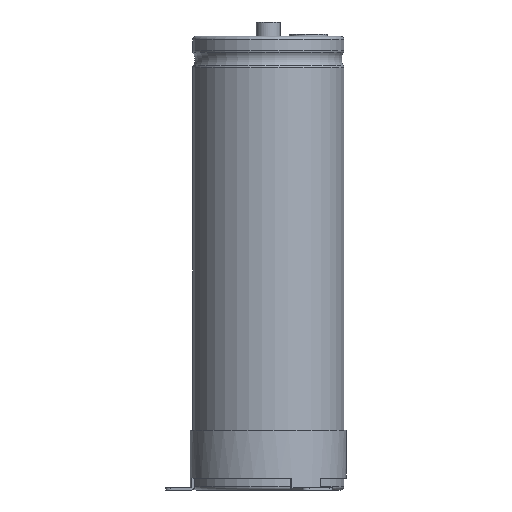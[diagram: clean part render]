
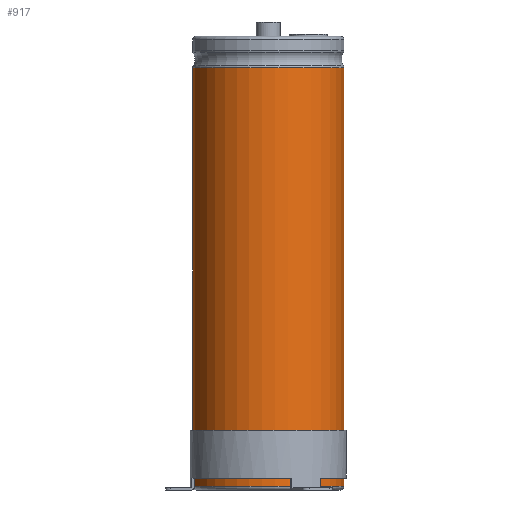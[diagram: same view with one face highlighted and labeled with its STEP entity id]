
A CAD part, front view. The second image highlights one B-rep face of the part: STEP entity #917.
In plain terms, the highlighted cylindrical face has radius 31.75 mm (diameter 63.5 mm), a partial arc.
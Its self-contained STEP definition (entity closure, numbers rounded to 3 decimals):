
#917=ADVANCED_FACE('',(#1213),#1039,.T.);
#1039=CYLINDRICAL_SURFACE('',#4878,31.75);
#1213=FACE_OUTER_BOUND('',#1474,.T.);
#1474=EDGE_LOOP('',(#2748,#2749,#2750,#2751));
#1758=CIRCLE('',#4875,31.75);
#1759=CIRCLE('',#4877,31.75);
#2748=ORIENTED_EDGE('',*,*,#3929,.T.);
#2749=ORIENTED_EDGE('',*,*,#3930,.T.);
#2750=ORIENTED_EDGE('',*,*,#3931,.F.);
#2751=ORIENTED_EDGE('',*,*,#3932,.F.);
#3366=VERTEX_POINT('',#7964);
#3368=VERTEX_POINT('',#7968);
#3369=VERTEX_POINT('',#7972);
#3370=VERTEX_POINT('',#7974);
#3929=EDGE_CURVE('',#3366,#3368,#1758,.T.);
#3930=EDGE_CURVE('',#3368,#3369,#4255,.T.);
#3931=EDGE_CURVE('',#3370,#3369,#1759,.T.);
#3932=EDGE_CURVE('',#3366,#3370,#4256,.T.);
#4255=LINE('',#7971,#4469);
#4256=LINE('',#7975,#4470);
#4469=VECTOR('',#5936,1.);
#4470=VECTOR('',#5939,1.);
#4875=AXIS2_PLACEMENT_3D('',#7969,#5932,#5933);
#4877=AXIS2_PLACEMENT_3D('',#7973,#5937,#5938);
#4878=AXIS2_PLACEMENT_3D('',#7976,#5940,#5941);
#5932=DIRECTION('',(0.,0.,-1.));
#5933=DIRECTION('',(0.,1.,0.));
#5936=DIRECTION('',(0.,0.,-1.));
#5937=DIRECTION('',(0.,0.,-1.));
#5938=DIRECTION('',(0.,1.,0.));
#5939=DIRECTION('',(0.,0.,-1.));
#5940=DIRECTION('',(0.,0.,-1.));
#5941=DIRECTION('',(0.,1.,0.));
#7964=CARTESIAN_POINT('',(4.007,31.496,176.9));
#7968=CARTESIAN_POINT('',(-4.007,31.496,176.9));
#7969=CARTESIAN_POINT('',(0.,0.,176.9));
#7971=CARTESIAN_POINT('',(-4.007,31.496,176.9));
#7972=CARTESIAN_POINT('',(-4.007,31.496,1.5));
#7973=CARTESIAN_POINT('',(0.,0.,1.5));
#7974=CARTESIAN_POINT('',(4.007,31.496,1.5));
#7975=CARTESIAN_POINT('',(4.007,31.496,176.9));
#7976=CARTESIAN_POINT('',(0.,0.,0.));
